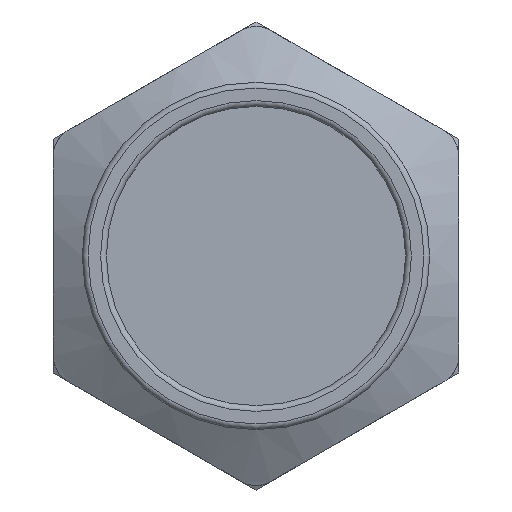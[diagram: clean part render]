
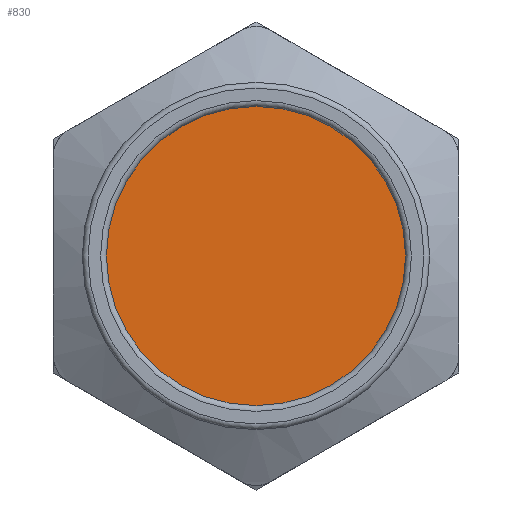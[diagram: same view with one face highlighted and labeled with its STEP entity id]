
A CAD part, left-side view. The second image highlights one B-rep face of the part: STEP entity #830.
In plain terms, the highlighted planar face has unit normal (-1, 0, 0).
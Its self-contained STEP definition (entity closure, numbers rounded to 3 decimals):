
#32=CIRCLE('',#884,7.75);
#33=CIRCLE('',#885,7.75);
#110=PLANE('',#937);
#154=FACE_OUTER_BOUND('',#201,.T.);
#201=EDGE_LOOP('',(#739,#740));
#352=VERTEX_POINT('',#1405);
#353=VERTEX_POINT('',#1407);
#454=EDGE_CURVE('',#352,#353,#32,.T.);
#455=EDGE_CURVE('',#353,#352,#33,.T.);
#739=ORIENTED_EDGE('',*,*,#455,.F.);
#740=ORIENTED_EDGE('',*,*,#454,.F.);
#830=ADVANCED_FACE('',(#154),#110,.T.);
#884=AXIS2_PLACEMENT_3D('',#1408,#1015,#1016);
#885=AXIS2_PLACEMENT_3D('',#1409,#1017,#1018);
#937=AXIS2_PLACEMENT_3D('',#1571,#1148,#1149);
#1015=DIRECTION('center_axis',(1.,0.,0.));
#1016=DIRECTION('ref_axis',(0.,0.,1.));
#1017=DIRECTION('center_axis',(1.,0.,0.));
#1018=DIRECTION('ref_axis',(0.,0.,1.));
#1148=DIRECTION('center_axis',(-1.,0.,0.));
#1149=DIRECTION('ref_axis',(0.,0.,1.));
#1405=CARTESIAN_POINT('',(-21.6,0.,-7.75));
#1407=CARTESIAN_POINT('',(-21.6,0.,7.75));
#1408=CARTESIAN_POINT('Origin',(-21.6,0.,0.));
#1409=CARTESIAN_POINT('Origin',(-21.6,0.,0.));
#1571=CARTESIAN_POINT('Origin',(-21.6,0.,0.));
